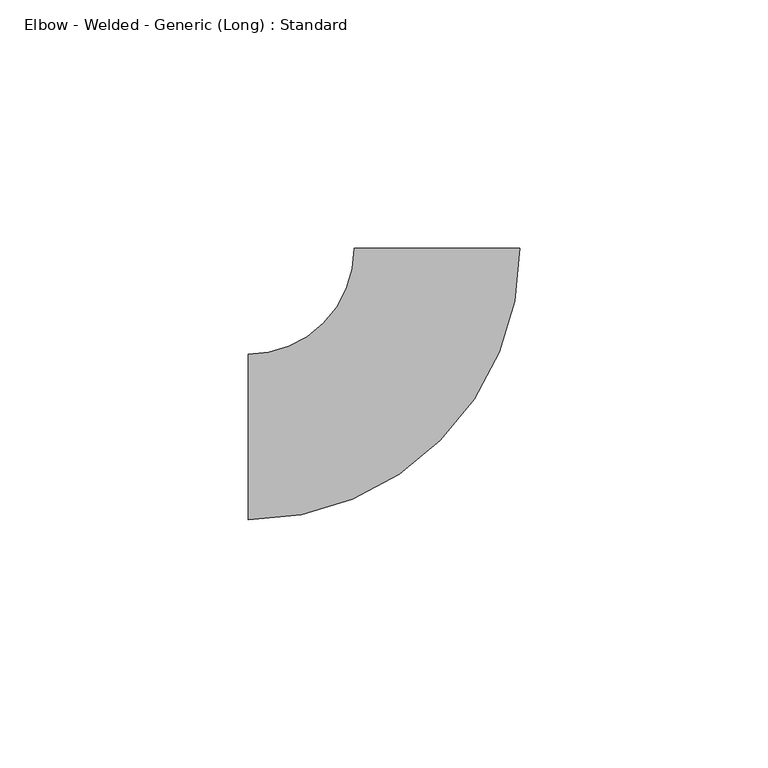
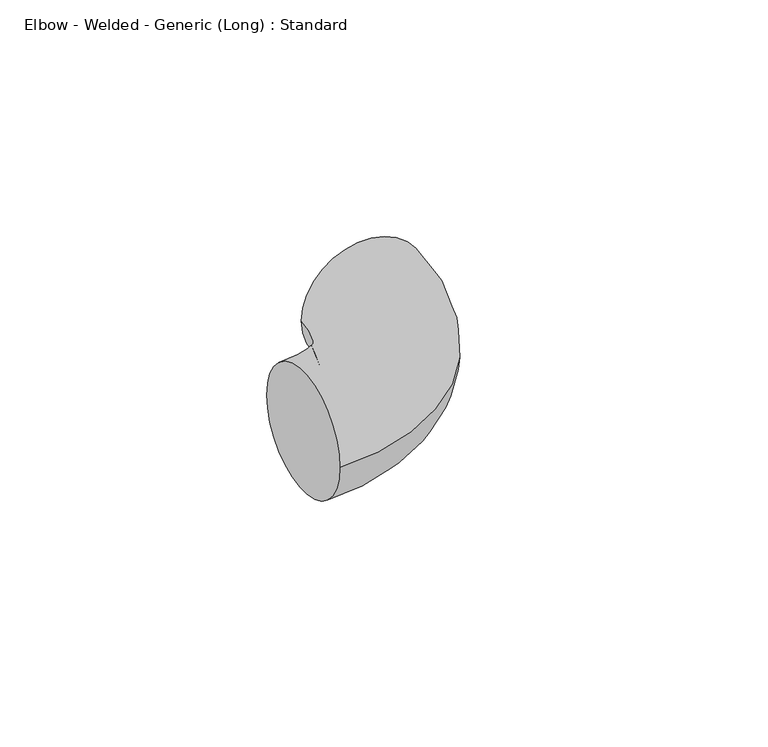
"""IFC4 building model written with IfcOpenShell, lengths in millimetres: pipe fitting geometry, Elbow - Welded - Generic (Long) : Standard."""

from ifc_helpers import new_model, si_unit, point, frame, origin, place, context, project, spatial, circle_curve, ellipse_curve, trimmed, source, transform, mapped, element, save
from ifc_brep_helpers import plane_surface, revolved_surface, advanced_brep


def elbow_welded_generic_long_standard_1631ed16(model_context):
    return source(origin(), model_context, "Body", "AdvancedBrep", [
        advanced_brep(
        [(-38.1, -16.66875, 0.0), (-38.1, 16.66875, 0.0), (16.6653595, 38.1014832, 0.0), (-16.6721403, 38.0985165, 0.0)],
        [
            (0, 1, circle_curve(frame((-38.1, 0.0, 0.0), z_axis=(-1.0, 0.0, 0.0), x_axis=(0.0, 1.0, 0.0)), 16.66875)),
            (1, 0, circle_curve(frame((-38.1, 0.0, 0.0), z_axis=(-1.0, 0.0, 0.0), x_axis=(0.0, 1.0, 0.0)), 16.66875)),
            (2, 3, circle_curve(frame((-0.0033904, 38.0999998, 0.0), z_axis=(-8.898725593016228e-05, 0.9999999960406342, 0.0), x_axis=(-0.9999999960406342, -8.898725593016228e-05, 0.0)), 16.66875)),
            (3, 2, circle_curve(frame((-0.0033904, 38.0999998, 0.0), z_axis=(-8.898725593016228e-05, 0.9999999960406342, 0.0), x_axis=(-0.9999999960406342, -8.898725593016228e-05, 0.0)), 16.66875)),
            (3, 1, circle_curve(frame((-38.1, 38.0966097, 0.0), z_axis=(0.0, 0.0, -1.0), x_axis=(0.0, -1.0, 0.0)), 21.4278597)),
            (0, 2, circle_curve(frame((-38.1, 38.0966097, 0.0), z_axis=(0.0, 0.0, 1.0), x_axis=(0.0, -1.0, 0.0)), 54.7653597)),
        ],
        [
            plane_surface(frame((-38.1, 0.0, 0.0), z_axis=(-1.0, 0.0, 0.0), x_axis=(0.0, 0.0, 1.0))),
            plane_surface(frame((-0.0033904, 38.0999998, 0.0), z_axis=(-8.898725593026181e-05, 0.9999999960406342, 0.0), x_axis=(0.0, 0.0, 1.0))),
            revolved_surface(trimmed(ellipse_curve(frame((-38.1, 0.0, 0.0), z_axis=(-1.0, 0.0, 0.0), x_axis=(0.0, 1.0, 0.0)), 16.66875, 16.66875), [point((-38.1, -16.66875, 0.0))], [point((-38.1, 16.66875, 0.0))], True, "CARTESIAN"), (-38.1, 38.0966097, 0.0), (0.0, 0.0, 1.0)),
            revolved_surface(trimmed(ellipse_curve(frame((-38.1, 0.0, 0.0), z_axis=(-1.0, 0.0, 0.0), x_axis=(0.0, 1.0, 0.0)), 16.66875, 16.66875), [point((-38.1, 16.66875, 0.0))], [point((-38.1, -16.66875, 0.0))], True, "CARTESIAN"), (-38.1, 38.0966097, 0.0), (0.0, 0.0, 1.0)),
        ],
        [
            (0, [[1, 2]]),
            (1, [[3, 4]]),
            (2, [[5, -1, 6, -4]]),
            (3, [[-6, -2, -5, -3]]),
        ],
    ),
    ])


if __name__ == "__main__":
    model = new_model("IFC4")
    model_context = context("Model", 3, world=origin())
    ifc_project = project(units=[si_unit("LENGTHUNIT", "METRE", prefix="MILLI")], contexts=[model_context])
    site = spatial("IfcSite", under=ifc_project)
    building = spatial("IfcBuilding", under=site)
    placement = place(None, origin())
    elbow_welded_generic_long_standard_shape = elbow_welded_generic_long_standard_1631ed16(model_context)
    element("IfcPipeFitting", 1, ObjectType="Elbow - Welded - Generic (Long) : Standard", at=placement, inside=building, context=model_context, shape_type="MappedRepresentation", body=[
        mapped(elbow_welded_generic_long_standard_shape, transform((0.0, 0.0, 0.0), x_axis=(1.0, 0.0, 0.0), y_axis=(0.0, 1.0, 0.0), z_axis=(0.0, 0.0, 1.0))),
    ])
    save(model, "model.ifc")
